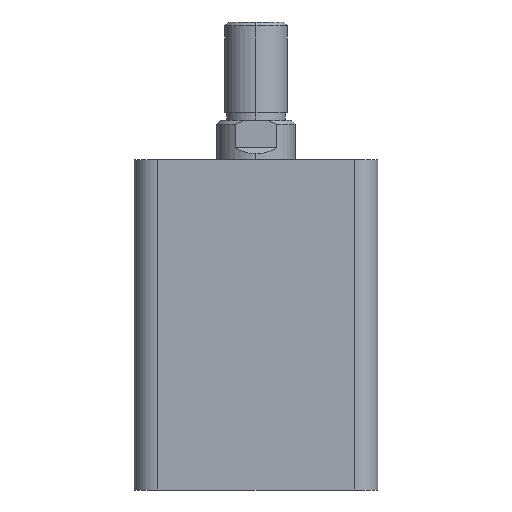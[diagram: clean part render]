
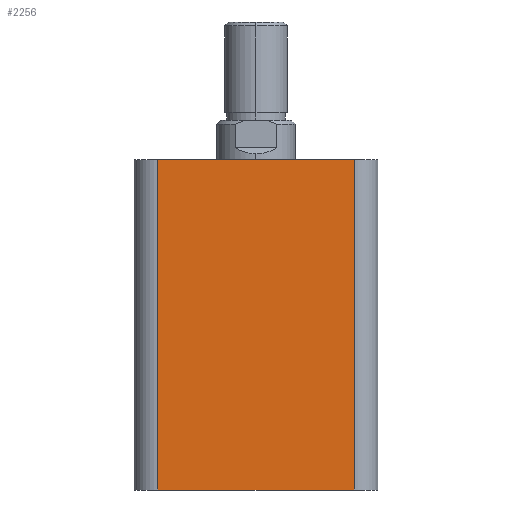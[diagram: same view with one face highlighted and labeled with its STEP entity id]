
A CAD part, left-side view. The second image highlights one B-rep face of the part: STEP entity #2256.
In plain terms, the highlighted planar face has unit normal (-1, 0, 0).
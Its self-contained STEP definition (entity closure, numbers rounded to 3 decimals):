
#256 = CARTESIAN_POINT ( 'NONE',  ( -31., 31., 84. ) ) ;
#257 = DIRECTION ( 'NONE',  ( 0., -1., 0. ) ) ;
#415 = CARTESIAN_POINT ( 'NONE',  ( -31., 31., 0. ) ) ;
#416 = DIRECTION ( 'NONE',  ( 0., -1., 0. ) ) ;
#620 = VECTOR ( 'NONE', #4767, 1000. ) ;
#629 = LINE ( 'NONE', #4752, #632 ) ;
#631 = LINE ( 'NONE', #4766, #620 ) ;
#632 = VECTOR ( 'NONE', #4754, 1000. ) ;
#910 = LINE ( 'NONE', #256, #912 ) ;
#912 = VECTOR ( 'NONE', #257, 1000. ) ;
#977 = LINE ( 'NONE', #415, #980 ) ;
#980 = VECTOR ( 'NONE', #416, 1000. ) ;
#1340 = VERTEX_POINT ( 'NONE', #2672 ) ;
#1341 = VERTEX_POINT ( 'NONE', #2683 ) ;
#1366 = VERTEX_POINT ( 'NONE', #2604 ) ;
#1387 = VERTEX_POINT ( 'NONE', #2738 ) ;
#2256 = ADVANCED_FACE ( 'NONE', ( #3394 ), #2853, .F. ) ;
#2495 = AXIS2_PLACEMENT_3D ( 'NONE', #2937, #2909, #2904 ) ;
#2604 = CARTESIAN_POINT ( 'NONE',  ( -31., -25., 84. ) ) ;
#2672 = CARTESIAN_POINT ( 'NONE',  ( -31., -25., 0. ) ) ;
#2683 = CARTESIAN_POINT ( 'NONE',  ( -31., 25., 0. ) ) ;
#2738 = CARTESIAN_POINT ( 'NONE',  ( -31., 25., 84. ) ) ;
#2853 = PLANE ( 'NONE',  #2495 ) ;
#2904 = DIRECTION ( 'NONE',  ( 0., 0., -1. ) ) ;
#2909 = DIRECTION ( 'NONE',  ( 1., 0., 0. ) ) ;
#2937 = CARTESIAN_POINT ( 'NONE',  ( -31., 31., 84. ) ) ;
#3028 = EDGE_CURVE ( 'NONE', #1340, #1366, #629, .T. ) ;
#3030 = EDGE_CURVE ( 'NONE', #1387, #1341, #631, .T. ) ;
#3229 = EDGE_CURVE ( 'NONE', #1387, #1366, #910, .T. ) ;
#3394 = FACE_OUTER_BOUND ( 'NONE', #4275, .T. ) ;
#3586 = ORIENTED_EDGE ( 'NONE', *, *, #3741, .T. ) ;
#3587 = ORIENTED_EDGE ( 'NONE', *, *, #3028, .T. ) ;
#3588 = ORIENTED_EDGE ( 'NONE', *, *, #3229, .F. ) ;
#3589 = ORIENTED_EDGE ( 'NONE', *, *, #3030, .T. ) ;
#3741 = EDGE_CURVE ( 'NONE', #1341, #1340, #977, .T. ) ;
#4275 = EDGE_LOOP ( 'NONE', ( #3586, #3587, #3588, #3589 ) ) ;
#4752 = CARTESIAN_POINT ( 'NONE',  ( -31., -25., 84. ) ) ;
#4754 = DIRECTION ( 'NONE',  ( 0., 0., 1. ) ) ;
#4766 = CARTESIAN_POINT ( 'NONE',  ( -31., 25., 84. ) ) ;
#4767 = DIRECTION ( 'NONE',  ( 0., 0., -1. ) ) ;
